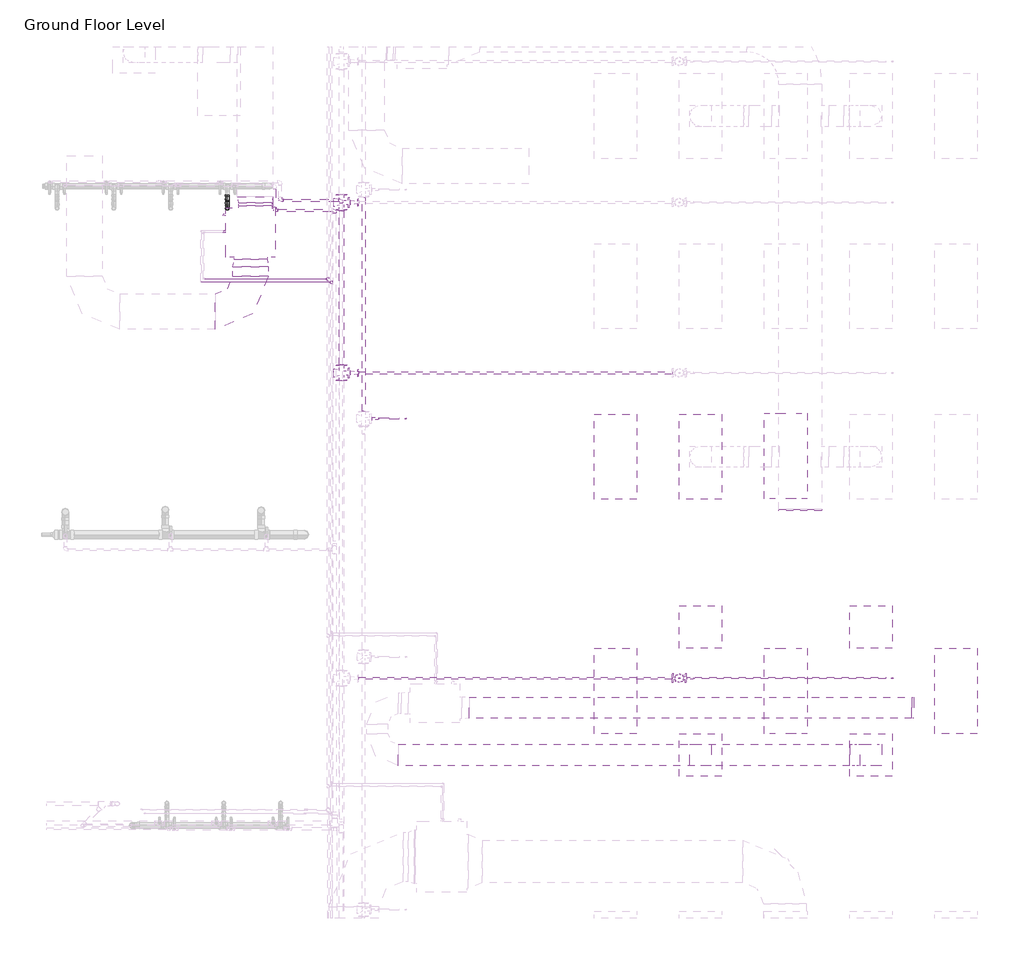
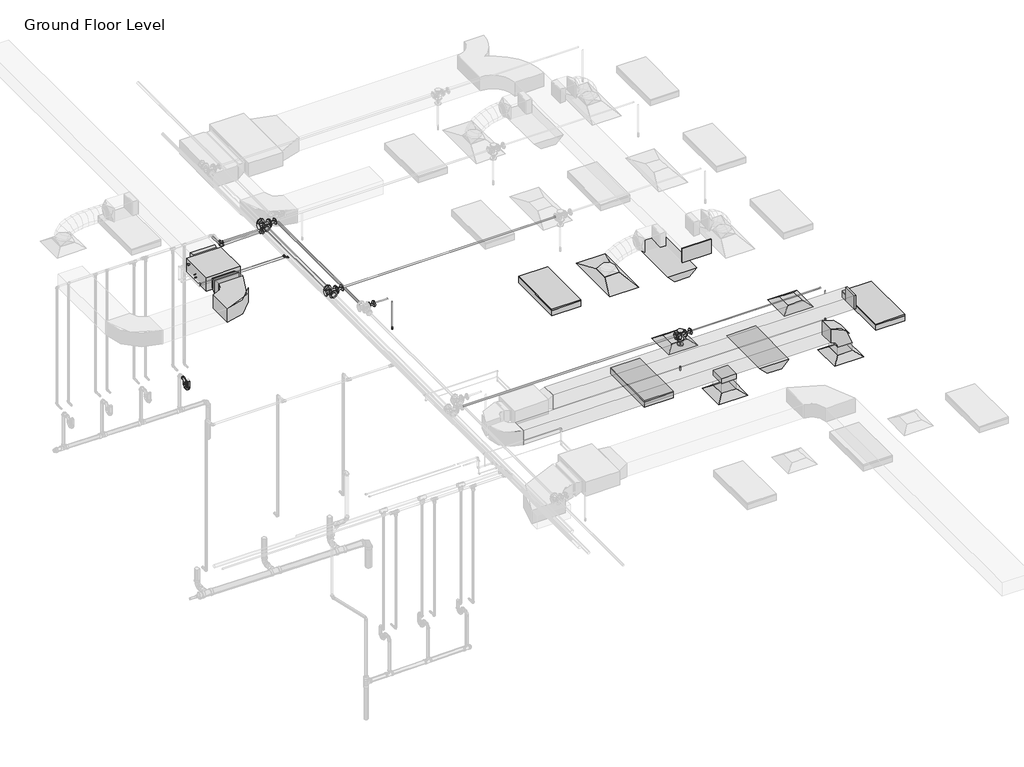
# One storey, part 21 of 66: 19 pipe fittings, 17 pipe segments, 7 duct fittings, 6 duct segments, 5 air terminals, 5 light fixtures, 3 fire suppression terminals, 1 proxy.
"""IFC4 building model written with IfcOpenShell, lengths in millimetres."""

from ifc_helpers import new_model, si_unit, point, frame, frame_2d, origin, place, context, project, spatial, polyline, circle_curve, trimmed, segment, composite_curve, outline, extrude, transform, mapped, element, save
from components import m_return_diffuser_600_x_600_face_300_x_300_connection_ff221211, m_return_diffuser_1200x600_1200_x_600_face_300_x_300_d1983ef6, fcu_daikin_iu_bad131e0, m_rectangular_elbow_radius_1_w_618da153, m_rectangular_elbow_radius_1_w_abe20169, m_rectangular_endcap_standard_0f0ff112, m_rectangular_endcap_standard_c319d4e7, m_rectangular_takeoff_standard_2be5eba1, m_rectangular_transition_angle_45_degree_f7c2916c, m_rectangular_transition_angle_45_degree_c3bd3b2c, m_sprinkler_dry_pendent_hosted_15_mm_dry_pendent_9bda8e11, m_sprinkler_pendent_15_mm_pendent_06fcbd8e, m_emergency_recessed_lighting_fixture_600x1200_277_5b10b25d, m_troffer_light_parabolic_rectangular1_0600x1200mm_4_lamp_86473d4a, m_bend_pvc_sch_40_dwv_standard_1e7bdcc1, m_bend_pvc_sch_40_dwv_standard_776e50c4, m_reducer_flanged_cs_class_150_standard_ccf252ad, m_reducer_flanged_cs_class_150_standard_cc2a7c1d, m_reducer_flanged_cs_class_150_standard_a7631c35, m_tee_generic_standard_5b2ed4d4, m_tee_generic_standard_5078887e, m_tee_round_base_flanged_cs_class_150_standard_dd767e04, m_tee_round_base_flanged_cs_class_150_standard_7e5987a1, m_transition_generic_standard_bdcfe2c1, m_transition_generic_standard_44e35838, standard_517a5a8d

model = new_model("IFC4")

# Units and contexts
model_context = context("Model", 3, world=origin())
ifc_project = project(units=[si_unit("LENGTHUNIT", "METRE", prefix="MILLI")], contexts=[model_context])

# Site, building, storey
site = spatial("IfcSite", under=ifc_project)
building = spatial("IfcBuilding", under=site)
storey = spatial("IfcBuildingStorey", under=building, Name="Ground Floor Level", Elevation=900.0)

# Air terminals
placement = place(None, origin())
m_return_diffuser_600_x_600_face_300_x_300_connection_shape = m_return_diffuser_600_x_600_face_300_x_300_connection_ff221211(model_context)
element("IfcAirTerminal", 1, ObjectType="M_Return Diffuser : 600 x 600 Face 300 x 300 Connection", at=placement, inside=storey, context=model_context, shape_type="MappedRepresentation", body=[
    mapped(m_return_diffuser_600_x_600_face_300_x_300_connection_shape, transform((10743.0482736, -31864.7846466, 3650.0), x_axis=(1.0, 0.0, 0.0), y_axis=(0.0, 1.0, 0.0), z_axis=(0.0, 0.0, 1.0))),
])
element("IfcAirTerminal", 2, ObjectType="M_Return Diffuser : 600 x 600 Face 300 x 300 Connection", at=placement, inside=storey, context=model_context, shape_type="MappedRepresentation", body=[
    mapped(m_return_diffuser_600_x_600_face_300_x_300_connection_shape, transform((13143.0482736, -31864.7846466, 3650.0), x_axis=(1.0, 0.0, 0.0), y_axis=(0.0, 1.0, 0.0), z_axis=(0.0, 0.0, 1.0))),
])
m_return_diffuser_1200x600_1200_x_600_face_300_x_300_shape = m_return_diffuser_1200x600_1200_x_600_face_300_x_300_d1983ef6(model_context)
element("IfcAirTerminal", 3, ObjectType="M_Supply Diffuser 1200x600 : 1200 x 600 Face 300 x 300 Connection", at=placement, inside=storey, context=model_context, shape_type="MappedRepresentation", body=[
    mapped(m_return_diffuser_1200x600_1200_x_600_face_300_x_300_shape, transform((10743.0482736, -27664.7846466, 3650.0), x_axis=(0.0, 1.0, 0.0), y_axis=(-1.0, 0.0, 0.0), z_axis=(0.0, 0.0, 1.0))),
])
element("IfcAirTerminal", 4, ObjectType="M_Supply Diffuser : 600 x 600 Face 300 x 300 Connection", at=placement, inside=storey, context=model_context, shape_type="MappedRepresentation", body=[
    mapped(m_return_diffuser_600_x_600_face_300_x_300_connection_shape, transform((10743.0482736, -30064.7846466, 3650.0), x_axis=(1.0, 0.0, 0.0), y_axis=(0.0, 1.0, 0.0), z_axis=(0.0, 0.0, 1.0))),
])
element("IfcAirTerminal", 5, ObjectType="M_Supply Diffuser : 600 x 600 Face 300 x 300 Connection", at=placement, inside=storey, context=model_context, shape_type="MappedRepresentation", body=[
    mapped(m_return_diffuser_600_x_600_face_300_x_300_connection_shape, transform((13143.0482736, -30064.7846466, 3650.0), x_axis=(1.0, 0.0, 0.0), y_axis=(0.0, 1.0, 0.0), z_axis=(0.0, 0.0, 1.0))),
])

# Proxy
fcu_daikin_iu_shape = fcu_daikin_iu_bad131e0(model_context)
element("IfcBuildingElementProxy", 6, Name="FCU-DAIKIN IU : 4.5kW, 230V/50Hz/1Ph", ObjectType="FCU-DAIKIN IU : 4.5kW, 230V/50Hz/1Ph", at=placement, inside=storey, context=model_context, shape_type="MappedRepresentation", body=[
    mapped(fcu_daikin_iu_shape, transform((4405.6581832, -24507.2627051, 3934.1054453), x_axis=(-1.0, 0.0, 0.0), y_axis=(0.0, -1.0, 0.0), z_axis=(0.0, 0.0, 1.0))),
])

# Duct fittings
m_rectangular_elbow_radius_1_w_shape = m_rectangular_elbow_radius_1_w_618da153(model_context)
element("IfcDuctFitting", 7, ObjectType="M_Rectangular Elbow - Radius : 1 W", at=placement, inside=storey, context=model_context, shape_type="MappedRepresentation", body=[
    mapped(m_rectangular_elbow_radius_1_w_shape, transform((13143.0482736, -31864.7846466, 4221.2), x_axis=(0.0, 0.0, 1.0), y_axis=(-1.0, 0.0, 0.0), z_axis=(0.0, -1.0, 0.0))),
])
m_rectangular_elbow_radius_1_w_2_shape = m_rectangular_elbow_radius_1_w_abe20169(model_context)
element("IfcDuctFitting", 8, ObjectType="M_Rectangular Elbow - Radius : 1 W", at=placement, inside=storey, context=model_context, shape_type="MappedRepresentation", body=[
    mapped(m_rectangular_elbow_radius_1_w_2_shape, transform((4405.6581832, -25622.6440715, 4075.3054453), x_axis=(1.0, 0.0, 0.0), y_axis=(0.0, 1.0, 0.0), z_axis=(0.0, 0.0, 1.0))),
])
m_rectangular_endcap_standard_shape = m_rectangular_endcap_standard_0f0ff112(model_context)
element("IfcDuctFitting", 9, ObjectType="M_Rectangular Endcap : Standard", at=placement, inside=storey, context=model_context, shape_type="MappedRepresentation", body=[
    mapped(m_rectangular_endcap_standard_shape, transform((12147.7826463, -28403.2846466, 4150.0002153), x_axis=(0.0, -1.0, 0.0), y_axis=(1.0, 0.0, 0.0), z_axis=(0.0, 0.0, 1.0))),
])
m_rectangular_endcap_standard_2_shape = m_rectangular_endcap_standard_c319d4e7(model_context)
element("IfcDuctFitting", 10, ObjectType="M_Rectangular Endcap : Standard", at=placement, inside=storey, context=model_context, shape_type="MappedRepresentation", body=[
    mapped(m_rectangular_endcap_standard_2_shape, transform((13719.2644074, -31200.1877703, 4245.9), x_axis=(0.9999999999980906, 0.0, -1.954187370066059e-06), y_axis=(0.0, 1.0000000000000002, 0.0), z_axis=(1.954187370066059e-06, 0.0, 0.9999999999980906))),
])
m_rectangular_takeoff_standard_shape = m_rectangular_takeoff_standard_2be5eba1(model_context)
element("IfcDuctFitting", 11, ObjectType="M_Rectangular Takeoff : Standard", at=placement, inside=storey, context=model_context, shape_type="MappedRepresentation", body=[
    mapped(m_rectangular_takeoff_standard_shape, transform((10743.0482736, -31864.7846466, 4071.2), x_axis=(0.0, 0.0, -1.0), y_axis=(-1.0, 0.0, 0.0), z_axis=(0.0, 1.0, 0.0))),
])
m_rectangular_transition_angle_45_degree_shape = m_rectangular_transition_angle_45_degree_f7c2916c(model_context)
element("IfcDuctFitting", 12, ObjectType="M_Rectangular Transition - Angle : 45 Degree", at=placement, inside=storey, context=model_context, shape_type="MappedRepresentation", body=[
    mapped(m_rectangular_transition_angle_45_degree_shape, transform((4405.6581832, -24882.6627051, 4075.3054453), x_axis=(0.0, -1.0, 0.0), y_axis=(1.0, 0.0, 0.0), z_axis=(0.0, 0.0, 1.0))),
])
m_rectangular_transition_angle_45_degree_2_shape = m_rectangular_transition_angle_45_degree_c3bd3b2c(model_context)
element("IfcDuctFitting", 13, ObjectType="M_Rectangular Transition - Angle : 45 Degree", at=placement, inside=storey, context=model_context, shape_type="MappedRepresentation", body=[
    mapped(m_rectangular_transition_angle_45_degree_2_shape, transform((4469.1581832, -24003.4668801, 4057.1548873), x_axis=(0.0, -0.9999999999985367, 1.7107374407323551e-06), y_axis=(1.0, 0.0, 0.0), z_axis=(0.0, 1.7107374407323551e-06, 0.9999999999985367))),
])

# Duct segments
element("IfcDuctSegment", 14, ObjectType="Radius Elbows / Taps", at=placement, inside=storey, context=model_context, shape_type="SweptSolid", body=[
    extrude(outline(polyline([(4155.6581832, -24986.1117562), (4655.6581832, -24986.1117562), (4655.6581832, -25122.6440715), (4155.6581832, -25122.6440715), (4155.6581832, -24986.1117562)])), frame((0.0, 0.0, 3925.3054453), z_axis=(0.0, 0.0, 1.0), x_axis=(1.0, 0.0, 0.0)), (0.0, 0.0, 1.0), 300.0),
])
element("IfcDuctSegment", 15, ObjectType="Radius Elbows / Taps", at=placement, inside=storey, context=model_context, shape_type="SweptSolid", body=[
    extrude(outline(polyline([(0.0, -300.0), (0.0, 0.0), (6236.5207712, 0.0), (6236.5207712, -300.0), (0.0, -300.0)])), frame((7482.7433356, -31050.1877703, 4095.9125), z_axis=(2.004322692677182e-06, 0.0, 0.9999999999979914), x_axis=(0.9999999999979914, 0.0, -2.004322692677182e-06)), (0.0, 0.0, 1.0), 300.0),
])
element("IfcDuctSegment", 16, ObjectType="Radius Elbows / Taps", at=placement, inside=storey, context=model_context, shape_type="SweptSolid", body=[
    extrude(outline(polyline([(6488.4644074, -32014.7846466), (6488.4644074, -31714.7846466), (12843.0482736, -31714.7846466), (12843.0482736, -32014.7846466), (6488.4644074, -32014.7846466)])), frame((0.0, 0.0, 4071.2), z_axis=(0.0, 0.0, 1.0), x_axis=(1.0, 0.0, 0.0)), (0.0, 0.0, 1.0), 300.0),
])
element("IfcDuctSegment", 17, ObjectType="Radius Elbows / Taps", at=placement, inside=storey, context=model_context, shape_type="SweptSolid", body=[
    extrude(outline(polyline([(12993.0482736, -32014.7846466), (12993.0482736, -31714.7846466), (13293.0482736, -31714.7846466), (13293.0482736, -32014.7846466), (12993.0482736, -32014.7846466)])), frame((0.0, 0.0, 3751.6), z_axis=(0.0, 0.0, 1.0), x_axis=(1.0, 0.0, 0.0)), (0.0, 0.0, 1.0), 169.6),
])
element("IfcDuctSegment", 18, ObjectType="Radius Elbows / Taps", at=placement, inside=storey, context=model_context, shape_type="SweptSolid", body=[
    extrude(outline(polyline([(10893.0482736, -32014.7846466), (10593.0482736, -32014.7846466), (10593.0482736, -31714.7846466), (10893.0482736, -31714.7846466), (10893.0482736, -32014.7846466)])), frame((0.0, 0.0, 3751.6), z_axis=(0.0, 0.0, 1.0), x_axis=(1.0, 0.0, 0.0)), (0.0, 0.0, 1.0), 218.0),
])
element("IfcDuctSegment", 19, ObjectType="Radius Elbows / Taps", at=placement, inside=storey, context=model_context, shape_type="SweptSolid", body=[
    extrude(outline(polyline([(4700.0956832, -24131.8627051), (4238.2206832, -24131.8627051), (4238.2206832, -24089.1912487), (4700.0956832, -24089.1912487), (4700.0956832, -24131.8627051)])), frame((0.0, 0.0, 3992.8804453), z_axis=(0.0, 0.0, 1.0), x_axis=(1.0, 0.0, 0.0)), (0.0, 0.0, 1.0), 214.275),
])

# Fire suppression terminals
m_sprinkler_dry_pendent_hosted_15_mm_dry_pendent_shape = m_sprinkler_dry_pendent_hosted_15_mm_dry_pendent_9bda8e11(model_context)
element("IfcFireSuppressionTerminal", 20, ObjectType="M_Sprinkler - Dry - Pendent - Hosted : 15 mm Dry Pendent", at=placement, inside=storey, context=model_context, shape_type="MappedRepresentation", body=[
    mapped(m_sprinkler_dry_pendent_hosted_15_mm_dry_pendent_shape, transform((10443.0482736, -30785.1783804, 3650.0), x_axis=(1.0, 0.0, 0.0), y_axis=(0.0, -1.0, 0.0), z_axis=(0.0, 0.0, -1.0))),
])
element("IfcFireSuppressionTerminal", 21, ObjectType="M_Sprinkler - Dry - Pendent - Hosted : 15 mm Dry Pendent", at=placement, inside=storey, context=model_context, shape_type="MappedRepresentation", body=[
    mapped(m_sprinkler_dry_pendent_hosted_15_mm_dry_pendent_shape, transform((13443.0482736, -30785.1783804, 3650.0), x_axis=(1.0, 0.0, 0.0), y_axis=(0.0, -1.0, 0.0), z_axis=(0.0, 0.0, -1.0))),
])
m_sprinkler_pendent_15_mm_pendent_shape = m_sprinkler_pendent_15_mm_pendent_06fcbd8e(model_context)
element("IfcFireSuppressionTerminal", 22, ObjectType="M_Sprinkler - Pendent : 15 mm Pendent", at=placement, inside=storey, context=model_context, shape_type="MappedRepresentation", body=[
    mapped(m_sprinkler_pendent_15_mm_pendent_shape, transform((6592.5481019, -27129.3982359, 3650.0), x_axis=(1.0, 0.0, 0.0), y_axis=(0.0, 1.0, 0.0), z_axis=(0.0, 0.0, 1.0))),
])

# Light fixtures
m_emergency_recessed_lighting_fixture_600x1200_277_shape = m_emergency_recessed_lighting_fixture_600x1200_277_5b10b25d(model_context)
element("IfcLightFixture", 23, ObjectType="M_Emergency Recessed Lighting Fixture : 600x1200 - 277", at=placement, inside=storey, context=model_context, shape_type="MappedRepresentation", body=[
    mapped(m_emergency_recessed_lighting_fixture_600x1200_277_shape, transform((11643.0482736, -28254.7846466, 3650.0), x_axis=(0.0, 1.0, 0.0), y_axis=(-1.0, 0.0, 0.0), z_axis=(0.0, 0.0, 1.0))),
])
element("IfcLightFixture", 24, ObjectType="M_Emergency Recessed Lighting Fixture : 600x1200 - 277", at=placement, inside=storey, context=model_context, shape_type="MappedRepresentation", body=[
    mapped(m_emergency_recessed_lighting_fixture_600x1200_277_shape, transform((11643.0482736, -31564.7846466, 3650.0), x_axis=(0.0, 1.0, 0.0), y_axis=(-1.0, 0.0, 0.0), z_axis=(0.0, 0.0, 1.0))),
])
m_troffer_light_parabolic_rectangular1_0600x1200mm_4_lamp_shape = m_troffer_light_parabolic_rectangular1_0600x1200mm_4_lamp_86473d4a(model_context)
element("IfcLightFixture", 25, ObjectType="M_Troffer Light - Parabolic Rectangular1 : 0600x1200mm(4 Lamp) - 277V 2", at=placement, inside=storey, context=model_context, shape_type="MappedRepresentation", body=[
    mapped(m_troffer_light_parabolic_rectangular1_0600x1200mm_4_lamp_shape, transform((9483.5823415, -27646.081145, 3650.0), x_axis=(0.0, 1.0, 0.0), y_axis=(-1.0, 0.0, 0.0), z_axis=(0.0, 0.0, 1.0))),
])
element("IfcLightFixture", 26, ObjectType="M_Troffer Light - Parabolic Rectangular1 : 0600x1200mm(4 Lamp) - 277V 2", at=placement, inside=storey, context=model_context, shape_type="MappedRepresentation", body=[
    mapped(m_troffer_light_parabolic_rectangular1_0600x1200mm_4_lamp_shape, transform((9483.5823415, -30946.081145, 3650.0), x_axis=(0.0, 1.0, 0.0), y_axis=(-1.0, 0.0, 0.0), z_axis=(0.0, 0.0, 1.0))),
])
element("IfcLightFixture", 27, ObjectType="M_Troffer Light - Parabolic Rectangular1 : 0600x1200mm(4 Lamp) - 277V 2", at=placement, inside=storey, context=model_context, shape_type="MappedRepresentation", body=[
    mapped(m_troffer_light_parabolic_rectangular1_0600x1200mm_4_lamp_shape, transform((14283.5823415, -30946.081145, 3650.0), x_axis=(0.0, 1.0, 0.0), y_axis=(-1.0, 0.0, 0.0), z_axis=(0.0, 0.0, 1.0))),
])

# Pipe fittings
m_bend_pvc_sch_40_dwv_standard_shape = m_bend_pvc_sch_40_dwv_standard_1e7bdcc1(model_context)
element("IfcPipeFitting", 28, ObjectType="M_Bend - PVC - Sch 40 - DWV : Standard", at=placement, inside=storey, context=model_context, shape_type="MappedRepresentation", body=[
    mapped(m_bend_pvc_sch_40_dwv_standard_shape, transform((4078.7498, -24168.3528578, 1360.00001), x_axis=(0.0, -0.9999500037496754, 0.009999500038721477), y_axis=(0.0, 0.009999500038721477, 0.9999500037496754), z_axis=(-1.0, 0.0, 0.0))),
])
m_bend_pvc_sch_40_dwv_standard_2_shape = m_bend_pvc_sch_40_dwv_standard_776e50c4(model_context)
element("IfcPipeFitting", 29, ObjectType="M_Bend - PVC - Sch 40 - DWV : Standard", at=placement, inside=storey, context=model_context, shape_type="MappedRepresentation", body=[
    mapped(m_bend_pvc_sch_40_dwv_standard_2_shape, transform((4078.7498, -24038.3518579, 1358.7), x_axis=(0.0, 0.9999500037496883, -0.009999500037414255), y_axis=(0.0, 0.009999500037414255, 0.9999500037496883), z_axis=(1.0, 0.0, 0.0))),
])
element("IfcPipeFitting", 30, ObjectType="M_Bend - PVC - Sch 40 - DWV : Standard", at=placement, inside=storey, context=model_context, shape_type="MappedRepresentation", body=[
    mapped(m_bend_pvc_sch_40_dwv_standard_2_shape, transform((4078.7498, -24038.3518579, 1510.09999), x_axis=(0.0, 0.0, 1.0), y_axis=(0.0, 1.0, 0.0), z_axis=(-1.0, 0.0, 0.0))),
])
m_reducer_flanged_cs_class_150_standard_shape = m_reducer_flanged_cs_class_150_standard_ccf252ad(model_context)
element("IfcPipeFitting", 31, ObjectType="M_Reducer - Flanged - CS - Class 150 : Standard", at=placement, inside=storey, context=model_context, shape_type="MappedRepresentation", body=[
    mapped(m_reducer_flanged_cs_class_150_standard_shape, transform((10543.7568674, -30785.1783804, 4347.5), x_axis=(1.0, 0.0, 0.0), y_axis=(0.0, 0.0, 1.0), z_axis=(0.0, -1.0, 0.0))),
])
element("IfcPipeFitting", 32, ObjectType="M_Reducer - Flanged - CS - Class 150 : Standard", at=placement, inside=storey, context=model_context, shape_type="MappedRepresentation", body=[
    mapped(m_reducer_flanged_cs_class_150_standard_shape, transform((10443.0482736, -30785.1783804, 4246.7914063), x_axis=(0.0, 0.0, -1.0), y_axis=(-1.0, 0.0, 0.0), z_axis=(0.0, 1.0, 0.0))),
])
m_reducer_flanged_cs_class_150_standard_2_shape = m_reducer_flanged_cs_class_150_standard_cc2a7c1d(model_context)
element("IfcPipeFitting", 33, ObjectType="M_Reducer - Flanged - CS - Class 150 : Standard", at=placement, inside=storey, context=model_context, shape_type="MappedRepresentation", body=[
    mapped(m_reducer_flanged_cs_class_150_standard_2_shape, transform((6103.1564057, -27129.3982359, 4291.2754753), x_axis=(1.0, 0.0, 0.0), y_axis=(0.0, 0.0, -1.0), z_axis=(0.0, 1.0, 0.0))),
])
m_reducer_flanged_cs_class_150_standard_3_shape = m_reducer_flanged_cs_class_150_standard_a7631c35(model_context)
element("IfcPipeFitting", 34, ObjectType="M_Reducer - Flanged - CS - Class 150 : Standard", at=placement, inside=storey, context=model_context, shape_type="MappedRepresentation", body=[
    mapped(m_reducer_flanged_cs_class_150_standard_3_shape, transform((5798.6174894, -26484.6295433, 4347.5), x_axis=(1.0, 0.0, 0.0), y_axis=(0.0, 0.0, 1.0), z_axis=(0.0, -1.0, 0.0))),
])
element("IfcPipeFitting", 35, ObjectType="M_Reducer - Flanged - CS - Class 150 : Standard", at=placement, inside=storey, context=model_context, shape_type="MappedRepresentation", body=[
    mapped(m_reducer_flanged_cs_class_150_standard_3_shape, transform((5798.6174894, -24083.6779349, 4347.5), x_axis=(1.0, 0.0, 0.0), y_axis=(0.0, 0.0, 1.0), z_axis=(0.0, -1.0, 0.0))),
])
m_tee_generic_standard_shape = m_tee_generic_standard_5b2ed4d4(model_context)
element("IfcPipeFitting", 36, ObjectType="M_Tee - Generic : Standard", at=placement, inside=storey, context=model_context, shape_type="MappedRepresentation", body=[
    mapped(m_tee_generic_standard_shape, transform((5543.9904113, -25206.4899508, 4377.5), x_axis=(0.0, -1.0, 0.0), y_axis=(1.0, 0.0, 0.0), z_axis=(0.0, 0.0, 1.0))),
])
m_tee_generic_standard_2_shape = m_tee_generic_standard_5078887e(model_context)
element("IfcPipeFitting", 37, ObjectType="M_Tee - Generic : Standard", at=placement, inside=storey, context=model_context, shape_type="MappedRepresentation", body=[
    mapped(m_tee_generic_standard_2_shape, transform((5497.8951827, -25162.0896488, 4390.0), x_axis=(0.0, -1.0, 0.0), y_axis=(1.0, 0.0, 0.0), z_axis=(0.0, 0.0, 1.0))),
])
m_tee_round_base_flanged_cs_class_150_standard_shape = m_tee_round_base_flanged_cs_class_150_standard_dd767e04(model_context)
element("IfcPipeFitting", 38, ObjectType="M_Tee Round Base - Flanged - CS - Class 150 : Standard", at=placement, inside=storey, context=model_context, shape_type="MappedRepresentation", body=[
    mapped(m_tee_round_base_flanged_cs_class_150_standard_shape, transform((5684.6174894, -26484.6295433, 4347.5), x_axis=(0.0, -1.0, 0.0), y_axis=(-1.0, 0.0, 0.0), z_axis=(0.0, 0.0, -1.0))),
])
element("IfcPipeFitting", 39, ObjectType="M_Tee Round Base - Flanged - CS - Class 150 : Standard", at=placement, inside=storey, context=model_context, shape_type="MappedRepresentation", body=[
    mapped(m_tee_round_base_flanged_cs_class_150_standard_shape, transform((5684.6174894, -24083.6779349, 4347.5), x_axis=(0.0, -1.0, 0.0), y_axis=(-1.0, 0.0, 0.0), z_axis=(0.0, 0.0, -1.0))),
])
m_tee_round_base_flanged_cs_class_150_standard_2_shape = m_tee_round_base_flanged_cs_class_150_standard_7e5987a1(model_context)
element("IfcPipeFitting", 40, ObjectType="M_Tee Round Base - Flanged - CS - Class 150 : Standard", at=placement, inside=storey, context=model_context, shape_type="MappedRepresentation", body=[
    mapped(m_tee_round_base_flanged_cs_class_150_standard_2_shape, transform((10443.0482736, -30785.1783804, 4347.5), x_axis=(1.0, 0.0, 0.0), y_axis=(0.0, 0.0, 1.0), z_axis=(0.0, -1.0, 0.0))),
])
m_transition_generic_standard_shape = m_transition_generic_standard_bdcfe2c1(model_context)
element("IfcPipeFitting", 41, ObjectType="M_Transition - Generic : Standard", at=placement, inside=storey, context=model_context, shape_type="MappedRepresentation", body=[
    mapped(m_transition_generic_standard_shape, transform((5523.3529113, -25206.4899508, 4377.5), x_axis=(-1.0, 0.0, 0.0), y_axis=(0.0, -1.0, 0.0), z_axis=(0.0, 0.0, 1.0))),
])
m_transition_generic_standard_2_shape = m_transition_generic_standard_44e35838(model_context)
element("IfcPipeFitting", 42, ObjectType="M_Transition - Generic : Standard", at=placement, inside=storey, context=model_context, shape_type="MappedRepresentation", body=[
    mapped(m_transition_generic_standard_2_shape, transform((5474.0826827, -25162.0896488, 4390.0), x_axis=(-1.0, 0.0, 0.0), y_axis=(0.0, -1.0, 0.0), z_axis=(0.0, 0.0, 1.0))),
])
standard_shape = standard_517a5a8d(model_context)
element("IfcPipeFitting", 43, ObjectType="M_Elbow - CPVC - Sch 40 : Standard", at=placement, inside=storey, context=model_context, shape_type="MappedRepresentation", body=[
    mapped(standard_shape, transform((4743.0647206, -24195.7825432, 4300.0), x_axis=(0.0, -1.0, 0.0), y_axis=(1.0, 0.0, 0.0), z_axis=(0.0, 0.0, 1.0))),
])
element("IfcPipeFitting", 44, ObjectType="M_Elbow - CPVC - Sch 40 : Standard", at=placement, inside=storey, context=model_context, shape_type="MappedRepresentation", body=[
    mapped(standard_shape, transform((5589.646628, -24195.7825432, 4300.0), x_axis=(0.0, 1.0, 0.0), y_axis=(-1.0, 0.0, 0.0), z_axis=(0.0, 0.0, 1.0))),
])
element("IfcPipeFitting", 45, ObjectType="M_Elbow - CPVC - Sch 40 : Standard", at=placement, inside=storey, context=model_context, shape_type="MappedRepresentation", body=[
    mapped(standard_shape, transform((5680.5575802, -24054.921633, 4250.0), x_axis=(0.0, 1.0, 0.0), y_axis=(-1.0, 0.0, 0.0), z_axis=(0.0, 0.0, 1.0))),
])
element("IfcPipeFitting", 46, ObjectType="M_Elbow - CPVC - Sch 40 : Standard", at=placement, inside=storey, context=model_context, shape_type="MappedRepresentation", body=[
    mapped(standard_shape, transform((4820.5575802, -24054.921633, 4250.0), x_axis=(0.0, -1.0, 0.0), y_axis=(1.0, 0.0, 0.0), z_axis=(0.0, 0.0, 1.0))),
])

# Pipe segments
element("IfcPipeSegment", 47, ObjectType="CPVC", at=placement, inside=storey, context=model_context, shape_type="SweptSolid", body=[
    extrude(outline(composite_curve([segment(trimmed(circle_curve(frame_2d((4300.0, 4743.0647206)), 16.7005), [point((4300.0, 4726.3642206))], [point((4283.2995, 4743.0647206))], False, "CARTESIAN"), True, "CONTINUOUS"), segment(trimmed(circle_curve(frame_2d((4300.0, 4743.0647206)), 16.7005), [point((4283.2995, 4743.0647206))], [point((4300.0, 4759.7652206))], False, "CARTESIAN"), True, "CONTINUOUS"), segment(trimmed(circle_curve(frame_2d((4300.0, 4743.0647206)), 16.7005), [point((4300.0, 4759.7652206))], [point((4316.7005, 4743.0647206))], False, "CARTESIAN"), True, "CONTINUOUS"), segment(trimmed(circle_curve(frame_2d((4300.0, 4743.0647206)), 16.7005), [point((4316.7005, 4743.0647206))], [point((4300.0, 4726.3642206))], False, "CARTESIAN"), True, "CONTINUOUS")], self_intersect=False)), frame((0.0, -24152.5199932, 0.0), z_axis=(0.0, 1.0, 0.0), x_axis=(0.0, 0.0, 1.0)), (0.0, 0.0, 1.0), 264.4727966),
])
element("IfcPipeSegment", 48, ObjectType="CPVC", at=placement, inside=storey, context=model_context, shape_type="SweptSolid", body=[
    extrude(outline(composite_curve([segment(trimmed(circle_curve(frame_2d((-24195.7825432, 4300.0)), 16.7005), [point((-24212.4830432, 4300.0))], [point((-24195.7825432, 4316.7005))], False, "CARTESIAN"), True, "CONTINUOUS"), segment(trimmed(circle_curve(frame_2d((-24195.7825432, 4300.0)), 16.7005), [point((-24195.7825432, 4316.7005))], [point((-24179.0820432, 4300.0))], False, "CARTESIAN"), True, "CONTINUOUS"), segment(trimmed(circle_curve(frame_2d((-24195.7825432, 4300.0)), 16.7005), [point((-24179.0820432, 4300.0))], [point((-24195.7825432, 4283.2995))], False, "CARTESIAN"), True, "CONTINUOUS"), segment(trimmed(circle_curve(frame_2d((-24195.7825432, 4300.0)), 16.7005), [point((-24195.7825432, 4283.2995))], [point((-24212.4830432, 4300.0))], False, "CARTESIAN"), True, "CONTINUOUS")], self_intersect=False)), frame((4786.3272706, 0.0, 0.0), z_axis=(1.0, 0.0, 0.0), x_axis=(0.0, 1.0, 0.0)), (0.0, 0.0, 1.0), 760.0568074),
])
element("IfcPipeSegment", 49, ObjectType="CPVC", at=placement, inside=storey, context=model_context, shape_type="SweptSolid", body=[
    extrude(outline(composite_curve([segment(trimmed(circle_curve(frame_2d((-24054.921633, 4250.0)), 16.7005), [point((-24038.221133, 4250.0))], [point((-24054.921633, 4233.2995))], False, "CARTESIAN"), True, "CONTINUOUS"), segment(trimmed(circle_curve(frame_2d((-24054.921633, 4250.0)), 16.7005), [point((-24054.921633, 4233.2995))], [point((-24071.622133, 4250.0))], False, "CARTESIAN"), True, "CONTINUOUS"), segment(trimmed(circle_curve(frame_2d((-24054.921633, 4250.0)), 16.7005), [point((-24071.622133, 4250.0))], [point((-24054.921633, 4266.7005))], False, "CARTESIAN"), True, "CONTINUOUS"), segment(trimmed(circle_curve(frame_2d((-24054.921633, 4250.0)), 16.7005), [point((-24054.921633, 4266.7005))], [point((-24038.221133, 4250.0))], False, "CARTESIAN"), True, "CONTINUOUS")], self_intersect=False)), frame((4863.8201302, 0.0, 0.0), z_axis=(1.0, 0.0, 0.0), x_axis=(0.0, 1.0, 0.0)), (0.0, 0.0, 1.0), 773.4749),
])
element("IfcPipeSegment", 50, ObjectType="Copper", at=placement, inside=storey, context=model_context, shape_type="SweptSolid", body=[
    extrude(outline(composite_curve([segment(trimmed(circle_curve(frame_2d((-25206.4899508, 4377.5)), 3.35), [point((-25209.8399508, 4377.5))], [point((-25206.4899508, 4380.85))], False, "CARTESIAN"), True, "CONTINUOUS"), segment(trimmed(circle_curve(frame_2d((-25206.4899508, 4377.5)), 3.35), [point((-25206.4899508, 4380.85))], [point((-25203.1399508, 4377.5))], False, "CARTESIAN"), True, "CONTINUOUS"), segment(trimmed(circle_curve(frame_2d((-25206.4899508, 4377.5)), 3.35), [point((-25203.1399508, 4377.5))], [point((-25206.4899508, 4374.15))], False, "CARTESIAN"), True, "CONTINUOUS"), segment(trimmed(circle_curve(frame_2d((-25206.4899508, 4377.5)), 3.35), [point((-25206.4899508, 4374.15))], [point((-25209.8399508, 4377.5))], False, "CARTESIAN"), True, "CONTINUOUS")], self_intersect=False)), frame((3716.5871688, 0.0, 0.0), z_axis=(1.0, 0.0, 0.0), x_axis=(0.0, 1.0, 0.0)), (0.0, 0.0, 1.0), 1802.7969926),
])
element("IfcPipeSegment", 51, ObjectType="Copper", at=placement, inside=storey, context=model_context, shape_type="SweptSolid", body=[
    extrude(outline(composite_curve([segment(trimmed(circle_curve(frame_2d((-25162.0896488, 4390.0)), 6.5), [point((-25168.5896488, 4390.0))], [point((-25162.0896488, 4396.5))], False, "CARTESIAN"), True, "CONTINUOUS"), segment(trimmed(circle_curve(frame_2d((-25162.0896488, 4390.0)), 6.5), [point((-25162.0896488, 4396.5))], [point((-25155.5896488, 4390.0))], False, "CARTESIAN"), True, "CONTINUOUS"), segment(trimmed(circle_curve(frame_2d((-25162.0896488, 4390.0)), 6.5), [point((-25155.5896488, 4390.0))], [point((-25162.0896488, 4383.5))], False, "CARTESIAN"), True, "CONTINUOUS"), segment(trimmed(circle_curve(frame_2d((-25162.0896488, 4390.0)), 6.5), [point((-25162.0896488, 4383.5))], [point((-25168.5896488, 4390.0))], False, "CARTESIAN"), True, "CONTINUOUS")], self_intersect=False)), frame((3756.0870393, 0.0, 0.0), z_axis=(1.0, 0.0, 0.0), x_axis=(0.0, 1.0, 0.0)), (0.0, 0.0, 1.0), 1712.4393933),
])
element("IfcPipeSegment", 52, ObjectType="PVC - DWV", at=placement, inside=storey, context=model_context, shape_type="SweptSolid", body=[
    extrude(outline(composite_curve([segment(trimmed(circle_curve(frame_2d((4078.7498, -24168.3528578)), 24.13), [point((4054.6198, -24168.3528578))], [point((4078.7498, -24144.2228578))], False, "CARTESIAN"), True, "CONTINUOUS"), segment(trimmed(circle_curve(frame_2d((4078.7498, -24168.3528578)), 24.13), [point((4078.7498, -24144.2228578))], [point((4102.8798, -24168.3528578))], False, "CARTESIAN"), True, "CONTINUOUS"), segment(trimmed(circle_curve(frame_2d((4078.7498, -24168.3528578)), 24.13), [point((4102.8798, -24168.3528578))], [point((4078.7498, -24192.4828578))], False, "CARTESIAN"), True, "CONTINUOUS"), segment(trimmed(circle_curve(frame_2d((4078.7498, -24168.3528578)), 24.13), [point((4078.7498, -24192.4828578))], [point((4054.6198, -24168.3528578))], False, "CARTESIAN"), True, "CONTINUOUS")], self_intersect=False)), frame((0.0, 0.0, 1421.89981), z_axis=(0.0, 0.0, 1.0), x_axis=(1.0, 0.0, 0.0)), (0.0, 0.0, 1.0), 128.10019),
])
element("IfcPipeSegment", 53, ObjectType="PVC - DWV", at=placement, inside=storey, context=model_context, shape_type="SweptSolid", body=[
    extrude(outline(composite_curve([segment(trimmed(circle_curve(frame_2d((0.0, -24.1299999)), 24.13), [point((24.13, -24.1299999))], [point((0.0, -48.2599999))], False, "CARTESIAN"), True, "CONTINUOUS"), segment(trimmed(circle_curve(frame_2d((0.0, -24.1299999)), 24.13), [point((0.0, -48.2599999))], [point((-24.13, -24.1299999))], False, "CARTESIAN"), True, "CONTINUOUS"), segment(trimmed(circle_curve(frame_2d((0.0, -24.1299999)), 24.13), [point((-24.13, -24.1299999))], [point((0.0, 0.0))], False, "CARTESIAN"), True, "CONTINUOUS"), segment(trimmed(circle_curve(frame_2d((0.0, -24.1299999)), 24.13), [point((0.0, 0.0))], [point((24.13, -24.1299999))], False, "CARTESIAN"), True, "CONTINUOUS")], self_intersect=False)), frame((4078.7498, -24100.0072752, 1383.4477606), z_axis=(0.0, -0.9999500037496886, 0.009999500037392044), x_axis=(1.0, 0.0, 0.0)), (0.0, 0.0, 1.0), 6.2078998),
])
element("IfcPipeSegment", 54, ObjectType="PVC - DWV", at=placement, inside=storey, context=model_context, shape_type="SweptSolid", body=[
    extrude(outline(composite_curve([segment(trimmed(circle_curve(frame_2d((4078.7498, -24038.3518579)), 24.13), [point((4054.6198, -24038.3518579))], [point((4078.7498, -24014.2218579))], False, "CARTESIAN"), True, "CONTINUOUS"), segment(trimmed(circle_curve(frame_2d((4078.7498, -24038.3518579)), 24.13), [point((4078.7498, -24014.2218579))], [point((4102.8798, -24038.3518579))], False, "CARTESIAN"), True, "CONTINUOUS"), segment(trimmed(circle_curve(frame_2d((4078.7498, -24038.3518579)), 24.13), [point((4102.8798, -24038.3518579))], [point((4078.7498, -24062.4818579))], False, "CARTESIAN"), True, "CONTINUOUS"), segment(trimmed(circle_curve(frame_2d((4078.7498, -24038.3518579)), 24.13), [point((4078.7498, -24062.4818579))], [point((4054.6198, -24038.3518579))], False, "CARTESIAN"), True, "CONTINUOUS")], self_intersect=False)), frame((0.0, 0.0, 1420.5998), z_axis=(0.0, 0.0, 1.0), x_axis=(1.0, 0.0, 0.0)), (0.0, 0.0, 1.0), 27.60039),
])
element("IfcPipeSegment", 55, ObjectType="Steel flanged", at=placement, inside=storey, context=model_context, shape_type="SweptSolid", body=[
    extrude(outline(composite_curve([segment(trimmed(circle_curve(frame_2d((6592.5481019, -27129.3982359)), 10.668), [point((6581.8801019, -27129.3982359))], [point((6592.5481019, -27118.7302359))], False, "CARTESIAN"), True, "CONTINUOUS"), segment(trimmed(circle_curve(frame_2d((6592.5481019, -27129.3982359)), 10.668), [point((6592.5481019, -27118.7302359))], [point((6603.2161019, -27129.3982359))], False, "CARTESIAN"), True, "CONTINUOUS"), segment(trimmed(circle_curve(frame_2d((6592.5481019, -27129.3982359)), 10.668), [point((6603.2161019, -27129.3982359))], [point((6592.5481019, -27140.0662359))], False, "CARTESIAN"), True, "CONTINUOUS"), segment(trimmed(circle_curve(frame_2d((6592.5481019, -27129.3982359)), 10.668), [point((6592.5481019, -27140.0662359))], [point((6581.8801019, -27129.3982359))], False, "CARTESIAN"), True, "CONTINUOUS")], self_intersect=False)), frame((0.0, 0.0, 3650.0), z_axis=(0.0, 0.0, 1.0), x_axis=(1.0, 0.0, 0.0)), (0.0, 0.0, 1.0), 548.2668816),
])
element("IfcPipeSegment", 56, ObjectType="Steel flanged", at=placement, inside=storey, context=model_context, shape_type="SweptSolid", body=[
    extrude(outline(composite_curve([segment(trimmed(circle_curve(frame_2d((-27129.3982359, 4291.2754753)), 10.668), [point((-27118.7302359, 4291.2754753))], [point((-27129.3982359, 4280.6074753))], False, "CARTESIAN"), True, "CONTINUOUS"), segment(trimmed(circle_curve(frame_2d((-27129.3982359, 4291.2754753)), 10.668), [point((-27129.3982359, 4280.6074753))], [point((-27140.0662359, 4291.2754753))], False, "CARTESIAN"), True, "CONTINUOUS"), segment(trimmed(circle_curve(frame_2d((-27129.3982359, 4291.2754753)), 10.668), [point((-27140.0662359, 4291.2754753))], [point((-27129.3982359, 4301.9434753))], False, "CARTESIAN"), True, "CONTINUOUS"), segment(trimmed(circle_curve(frame_2d((-27129.3982359, 4291.2754753)), 10.668), [point((-27129.3982359, 4301.9434753))], [point((-27118.7302359, 4291.2754753))], False, "CARTESIAN"), True, "CONTINUOUS")], self_intersect=False)), frame((6217.1564057, 0.0, 0.0), z_axis=(1.0, 0.0, 0.0), x_axis=(0.0, 1.0, 0.0)), (0.0, 0.0, 1.0), 282.3831025),
])
element("IfcPipeSegment", 57, ObjectType="Steel flanged", at=placement, inside=storey, context=model_context, shape_type="SweptSolid", body=[
    extrude(outline(composite_curve([segment(trimmed(circle_curve(frame_2d((4291.0943441, 5997.057812)), 21.082), [point((4291.0943441, 5975.975812))], [point((4270.0123441, 5997.057812))], False, "CARTESIAN"), True, "CONTINUOUS"), segment(trimmed(circle_curve(frame_2d((4291.0943441, 5997.057812)), 21.082), [point((4270.0123441, 5997.057812))], [point((4291.0943441, 6018.139812))], False, "CARTESIAN"), True, "CONTINUOUS"), segment(trimmed(circle_curve(frame_2d((4291.0943441, 5997.057812)), 21.082), [point((4291.0943441, 6018.139812))], [point((4312.1763441, 5997.057812))], False, "CARTESIAN"), True, "CONTINUOUS"), segment(trimmed(circle_curve(frame_2d((4291.0943441, 5997.057812)), 21.082), [point((4312.1763441, 5997.057812))], [point((4291.0943441, 5975.975812))], False, "CARTESIAN"), True, "CONTINUOUS")], self_intersect=False)), frame((0.0, -27023.2996422, 0.0), z_axis=(0.0, 1.0, 0.0), x_axis=(0.0, 0.0, 1.0)), (0.0, 0.0, 1.0), 3013.5231135),
])
element("IfcPipeSegment", 58, ObjectType="Steel flanged", at=placement, inside=storey, context=model_context, shape_type="SweptSolid", body=[
    extrude(outline(composite_curve([segment(trimmed(circle_curve(frame_2d((13443.0482736, -30785.1783804)), 10.668), [point((13432.3802736, -30785.1783804))], [point((13443.0482736, -30774.5103804))], False, "CARTESIAN"), True, "CONTINUOUS"), segment(trimmed(circle_curve(frame_2d((13443.0482736, -30785.1783804)), 10.668), [point((13443.0482736, -30774.5103804))], [point((13453.7162736, -30785.1783804))], False, "CARTESIAN"), True, "CONTINUOUS"), segment(trimmed(circle_curve(frame_2d((13443.0482736, -30785.1783804)), 10.668), [point((13453.7162736, -30785.1783804))], [point((13443.0482736, -30795.8463804))], False, "CARTESIAN"), True, "CONTINUOUS"), segment(trimmed(circle_curve(frame_2d((13443.0482736, -30785.1783804)), 10.668), [point((13443.0482736, -30795.8463804))], [point((13432.3802736, -30785.1783804))], False, "CARTESIAN"), True, "CONTINUOUS")], self_intersect=False)), frame((0.0, 0.0, 3650.0), z_axis=(0.0, 0.0, 1.0), x_axis=(1.0, 0.0, 0.0)), (0.0, 0.0, 1.0), 604.4914062),
])
element("IfcPipeSegment", 59, ObjectType="Steel flanged", at=placement, inside=storey, context=model_context, shape_type="SweptSolid", body=[
    extrude(outline(composite_curve([segment(trimmed(circle_curve(frame_2d((4347.5, 5684.6174894)), 30.1625), [point((4347.5, 5714.7799894))], [point((4377.6625, 5684.6174894))], False, "CARTESIAN"), True, "CONTINUOUS"), segment(trimmed(circle_curve(frame_2d((4347.5, 5684.6174894)), 30.1625), [point((4377.6625, 5684.6174894))], [point((4347.5, 5654.4549894))], False, "CARTESIAN"), True, "CONTINUOUS"), segment(trimmed(circle_curve(frame_2d((4347.5, 5684.6174894)), 30.1625), [point((4347.5, 5654.4549894))], [point((4317.3375, 5684.6174894))], False, "CARTESIAN"), True, "CONTINUOUS"), segment(trimmed(circle_curve(frame_2d((4347.5, 5684.6174894)), 30.1625), [point((4317.3375, 5684.6174894))], [point((4347.5, 5714.7799894))], False, "CARTESIAN"), True, "CONTINUOUS")], self_intersect=False)), frame((0.0, -26370.6295433, 0.0), z_axis=(0.0, 1.0, 0.0), x_axis=(0.0, 0.0, 1.0)), (0.0, 0.0, 1.0), 2172.9516084),
])
element("IfcPipeSegment", 60, ObjectType="Steel flanged", at=placement, inside=storey, context=model_context, shape_type="SweptSolid", body=[
    extrude(outline(composite_curve([segment(trimmed(circle_curve(frame_2d((10443.0482736, -30785.1783804)), 10.668), [point((10432.3802736, -30785.1783804))], [point((10443.0482736, -30774.5103804))], False, "CARTESIAN"), True, "CONTINUOUS"), segment(trimmed(circle_curve(frame_2d((10443.0482736, -30785.1783804)), 10.668), [point((10443.0482736, -30774.5103804))], [point((10453.7162736, -30785.1783804))], False, "CARTESIAN"), True, "CONTINUOUS"), segment(trimmed(circle_curve(frame_2d((10443.0482736, -30785.1783804)), 10.668), [point((10453.7162736, -30785.1783804))], [point((10443.0482736, -30795.8463804))], False, "CARTESIAN"), True, "CONTINUOUS"), segment(trimmed(circle_curve(frame_2d((10443.0482736, -30785.1783804)), 10.668), [point((10443.0482736, -30795.8463804))], [point((10432.3802736, -30785.1783804))], False, "CARTESIAN"), True, "CONTINUOUS")], self_intersect=False)), frame((0.0, 0.0, 3650.0), z_axis=(0.0, 0.0, 1.0), x_axis=(1.0, 0.0, 0.0)), (0.0, 0.0, 1.0), 482.7914062),
])
element("IfcPipeSegment", 61, ObjectType="Steel flanged", at=placement, inside=storey, context=model_context, shape_type="SweptSolid", body=[
    extrude(outline(composite_curve([segment(trimmed(circle_curve(frame_2d((-30785.1783804, 4347.5)), 16.7005), [point((-30768.4778804, 4347.5))], [point((-30785.1783804, 4330.7995))], False, "CARTESIAN"), True, "CONTINUOUS"), segment(trimmed(circle_curve(frame_2d((-30785.1783804, 4347.5)), 16.7005), [point((-30785.1783804, 4330.7995))], [point((-30801.8788804, 4347.5))], False, "CARTESIAN"), True, "CONTINUOUS"), segment(trimmed(circle_curve(frame_2d((-30785.1783804, 4347.5)), 16.7005), [point((-30801.8788804, 4347.5))], [point((-30785.1783804, 4364.2005))], False, "CARTESIAN"), True, "CONTINUOUS"), segment(trimmed(circle_curve(frame_2d((-30785.1783804, 4347.5)), 16.7005), [point((-30785.1783804, 4364.2005))], [point((-30768.4778804, 4347.5))], False, "CARTESIAN"), True, "CONTINUOUS")], self_intersect=False)), frame((5925.6174894, 0.0, 0.0), z_axis=(1.0, 0.0, 0.0), x_axis=(0.0, 1.0, 0.0)), (0.0, 0.0, 1.0), 4416.7221905),
])
element("IfcPipeSegment", 62, ObjectType="Steel flanged", at=placement, inside=storey, context=model_context, shape_type="SweptSolid", body=[
    extrude(outline(composite_curve([segment(trimmed(circle_curve(frame_2d((-30785.1783804, 4347.5)), 10.668), [point((-30774.5103804, 4347.5))], [point((-30785.1783804, 4336.832))], False, "CARTESIAN"), True, "CONTINUOUS"), segment(trimmed(circle_curve(frame_2d((-30785.1783804, 4347.5)), 10.668), [point((-30785.1783804, 4336.832))], [point((-30795.8463804, 4347.5))], False, "CARTESIAN"), True, "CONTINUOUS"), segment(trimmed(circle_curve(frame_2d((-30785.1783804, 4347.5)), 10.668), [point((-30795.8463804, 4347.5))], [point((-30785.1783804, 4358.168))], False, "CARTESIAN"), True, "CONTINUOUS"), segment(trimmed(circle_curve(frame_2d((-30785.1783804, 4347.5)), 10.668), [point((-30785.1783804, 4358.168))], [point((-30774.5103804, 4347.5))], False, "CARTESIAN"), True, "CONTINUOUS")], self_intersect=False)), frame((10657.7568674, 0.0, 0.0), z_axis=(1.0, 0.0, 0.0), x_axis=(0.0, 1.0, 0.0)), (0.0, 0.0, 1.0), 2692.2828125),
])
element("IfcPipeSegment", 63, ObjectType="Steel flanged", at=placement, inside=storey, context=model_context, shape_type="SweptSolid", body=[
    extrude(outline(composite_curve([segment(trimmed(circle_curve(frame_2d((-26484.6295433, 4347.5)), 16.7005), [point((-26467.9290433, 4347.5))], [point((-26484.6295433, 4330.7995))], False, "CARTESIAN"), True, "CONTINUOUS"), segment(trimmed(circle_curve(frame_2d((-26484.6295433, 4347.5)), 16.7005), [point((-26484.6295433, 4330.7995))], [point((-26501.3300433, 4347.5))], False, "CARTESIAN"), True, "CONTINUOUS"), segment(trimmed(circle_curve(frame_2d((-26484.6295433, 4347.5)), 16.7005), [point((-26501.3300433, 4347.5))], [point((-26484.6295433, 4364.2005))], False, "CARTESIAN"), True, "CONTINUOUS"), segment(trimmed(circle_curve(frame_2d((-26484.6295433, 4347.5)), 16.7005), [point((-26484.6295433, 4364.2005))], [point((-26467.9290433, 4347.5))], False, "CARTESIAN"), True, "CONTINUOUS")], self_intersect=False)), frame((5925.6174894, 0.0, 0.0), z_axis=(1.0, 0.0, 0.0), x_axis=(0.0, 1.0, 0.0)), (0.0, 0.0, 1.0), 4416.7221905),
])

save(model, "model.ifc")
